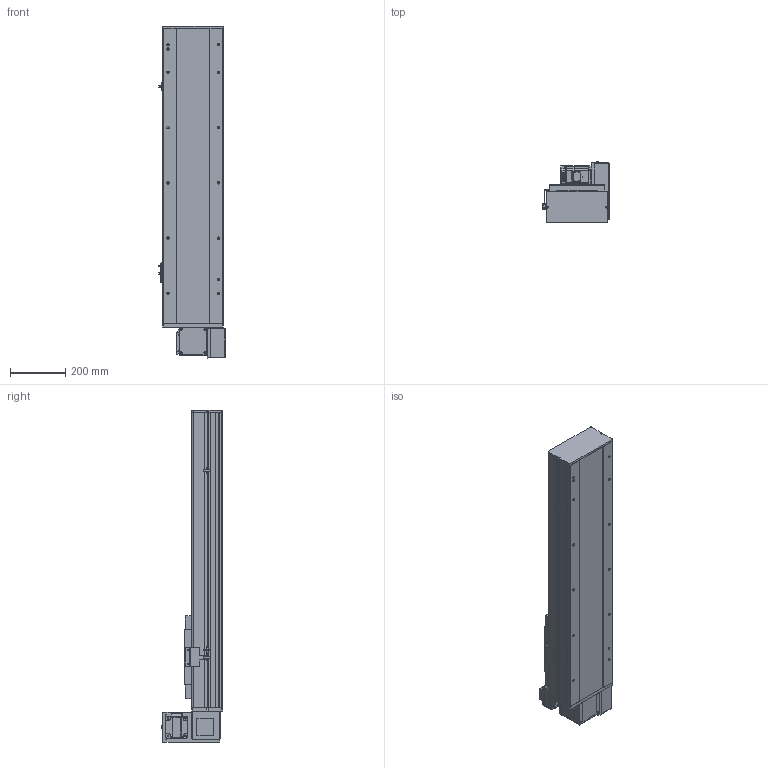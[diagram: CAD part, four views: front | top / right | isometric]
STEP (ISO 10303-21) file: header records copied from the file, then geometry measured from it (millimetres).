
FILE_DESCRIPTION (( 'STEP AP214' ), '1' );
FILE_NAME ('TPE22-L40-650-LU-T75-C4.STEP', '2023-04-12T10:45:58', ( '' ), ( '' ), 'SwSTEP 2.0', 'SolidWorks 2020', '' );
FILE_SCHEMA (( 'AUTOMOTIVE_DESIGN' ));
Length unit declared in the file: millimetre
Products named in the file (10): 葩璃 TPE22-L-002 耜裔ZTMZ-220-04^TPE22-L40-LU-T75-C4; 葩璃 TPT22-L-009 萇儂啣^TPE22-L40-LU-T75-C4; 葩璃 TPE22-L-007 々湍釱^TPE22-L40-LU-T75-C4; 葩璃 詩湍150^TPE22-L40-LU-T75-C4; 葩璃 pm-t65-672^TPE22-L40-LU-T75-C4; hexagon head bolts-full thread gb_GB_FASTENER_BOLT_STBAB A M5X16-N; 葩璃 TPE22 賑雄殤^TPE22-L40-LU-T75-C4; TPE22-L40-650-LU-T75-C4; 葩璃 TPE22-L-001 菁釱MZ-220-01^TPE22-L40-LU-T75-C4; 葩璃 MSMD08PC_P75^TPE22-L40-LU-T75-C4
Assembly tree (12 placements, depth 2):
  TPE22-L40-650-LU-T75-C4
    葩璃 TPE22-L-001 菁釱MZ-220-01^TPE22-L40-LU-T75-C4
    葩璃 TPE22-L-002 耜裔ZTMZ-220-04^TPE22-L40-LU-T75-C4  x2
    葩璃 詩湍150^TPE22-L40-LU-T75-C4
    葩璃 TPE22-L-007 々湍釱^TPE22-L40-LU-T75-C4
    葩璃 TPT22-L-009 萇儂啣^TPE22-L40-LU-T75-C4
    葩璃 TPE22 賑雄殤^TPE22-L40-LU-T75-C4
    葩璃 pm-t65-672^TPE22-L40-LU-T75-C4  x3
    葩璃 MSMD08PC_P75^TPE22-L40-LU-T75-C4
    hexagon head bolts-full thread gb_GB_FASTENER_BOLT_STBAB A M5X16-N
Bounding box: 239.2 x 223.65 x 1202 mm (x, y, z)
Volume: 13916644.4 mm3; surface area: 2204057.4 mm2
Topology: 22 solids, 22 shells, 1733 faces, 4559 edges, 2915 vertices
Faces by surface type: plane 1039, cylinder 564, cone 100, bspline 30
Entity records: 48902 total; most frequent: CARTESIAN_POINT 10169, DIRECTION 7690, ORIENTED_EDGE 7622, EDGE_CURVE 3811, LINE 2608, VECTOR 2608, AXIS2_PLACEMENT_3D 2541, VERTEX_POINT 2459
